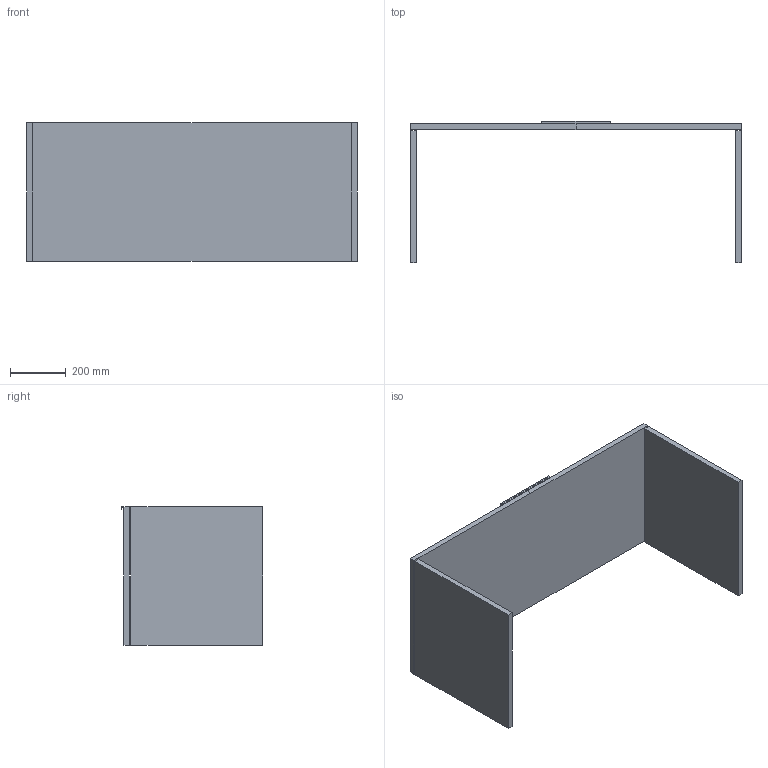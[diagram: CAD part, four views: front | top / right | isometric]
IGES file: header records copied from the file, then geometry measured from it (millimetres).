
Start section: START RECORD GO HERE.
Global section: file name: 5474.igs; native system: DASSAULT SYSTEMES CATIA V5 R19 - www.3ds.com; preprocessor: CATIA Version 5 Release 19 SP 5 ; author: gioge; organization: LAPTOP-G94B6G74; date: 20201003.150436; units: millimetre
Bounding box: 1190 x 510 x 500 mm (x, y, z)
Surface area: 2295472 mm2 (no closed solid volume)
Topology: 0 solids, 0 shells, 28 faces, 120 edges, 120 vertices
Faces by surface type: plane 28
